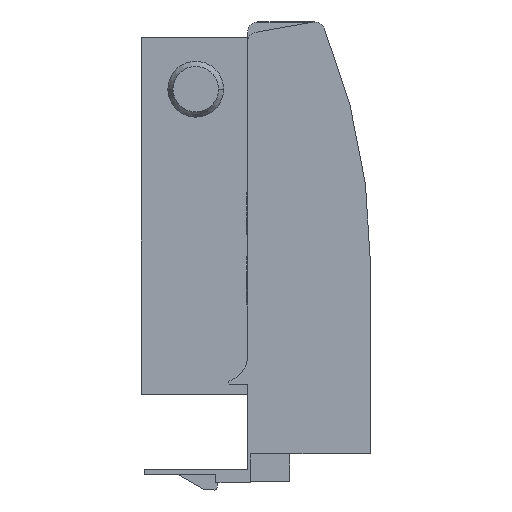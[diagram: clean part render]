
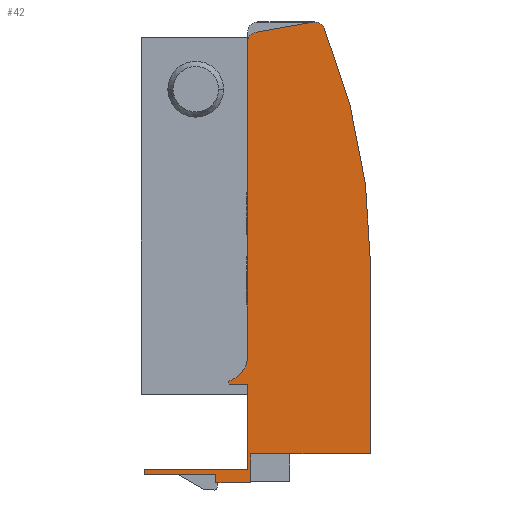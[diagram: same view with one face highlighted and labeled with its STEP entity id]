
A CAD part, front view. The second image highlights one B-rep face of the part: STEP entity #42.
In plain terms, the highlighted planar face has unit normal (0, -1, 0).
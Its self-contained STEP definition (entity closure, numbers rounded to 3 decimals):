
#42 = ADVANCED_FACE ( 'NONE', ( #1041 ), #891, .T. ) ;
#53 = CARTESIAN_POINT ( 'NONE',  ( -41.499, 0., -17.528 ) ) ;
#55 = CARTESIAN_POINT ( 'NONE',  ( -21.5, 0., -16.5 ) ) ;
#64 = CARTESIAN_POINT ( 'NONE',  ( -21.5, 0., 0. ) ) ;
#66 = CARTESIAN_POINT ( 'NONE',  ( -27.599, 0., -17.528 ) ) ;
#75 = CARTESIAN_POINT ( 'NONE',  ( -21.5, 0., 5.395 ) ) ;
#77 = CARTESIAN_POINT ( 'NONE',  ( -41.499, 0., -16.5 ) ) ;
#83 = CARTESIAN_POINT ( 'NONE',  ( -25.161, 0., 0.578 ) ) ;
#86 = CARTESIAN_POINT ( 'NONE',  ( -8.847, 0., 69.97 ) ) ;
#90 = CARTESIAN_POINT ( 'NONE',  ( 2.3, 0., 23.168 ) ) ;
#94 = CARTESIAN_POINT ( 'NONE',  ( -27.599, 0., -19.1 ) ) ;
#95 = CARTESIAN_POINT ( 'NONE',  ( -21.5, 0., 66.06 ) ) ;
#138 = CARTESIAN_POINT ( 'NONE',  ( -20.9, 0., -19.1 ) ) ;
#265 = CARTESIAN_POINT ( 'NONE',  ( -20.9, 0., -19.1 ) ) ;
#266 = DIRECTION ( 'NONE',  ( 0., 0., 1. ) ) ;
#281 = CARTESIAN_POINT ( 'NONE',  ( -26.5, 0., 5.395 ) ) ;
#282 = DIRECTION ( 'NONE',  ( 0., 1., 0. ) ) ;
#283 = DIRECTION ( 'NONE',  ( 1., 0., 0. ) ) ;
#288 = CARTESIAN_POINT ( 'NONE',  ( -25.161, 0., 0.578 ) ) ;
#289 = DIRECTION ( 'NONE',  ( 0.268, 0., -0.963 ) ) ;
#292 = CARTESIAN_POINT ( 'NONE',  ( -21.5, 0., 68. ) ) ;
#293 = DIRECTION ( 'NONE',  ( 0., 0., -1. ) ) ;
#310 = CARTESIAN_POINT ( 'NONE',  ( -21.5, 0., -16.5 ) ) ;
#311 = DIRECTION ( 'NONE',  ( -1., 0., 0. ) ) ;
#312 = CARTESIAN_POINT ( 'NONE',  ( -27.599, 0., -19.1 ) ) ;
#313 = DIRECTION ( 'NONE',  ( 1., 0., 0. ) ) ;
#324 = CARTESIAN_POINT ( 'NONE',  ( -21.5, 0., 0. ) ) ;
#325 = DIRECTION ( 'NONE',  ( 0., 0., -1. ) ) ;
#349 = CARTESIAN_POINT ( 'NONE',  ( 2.3, 0., -13.5 ) ) ;
#350 = DIRECTION ( 'NONE',  ( 0., 0., 1. ) ) ;
#360 = CARTESIAN_POINT ( 'NONE',  ( -21.5, 0., -13.5 ) ) ;
#361 = DIRECTION ( 'NONE',  ( 1., 0., 0. ) ) ;
#368 = CARTESIAN_POINT ( 'NONE',  ( -8.5, 0., 68. ) ) ;
#369 = DIRECTION ( 'NONE',  ( 0., -1., 0. ) ) ;
#370 = DIRECTION ( 'NONE',  ( 1., 0., 0. ) ) ;
#378 = CARTESIAN_POINT ( 'NONE',  ( -25., 0., 0. ) ) ;
#379 = DIRECTION ( 'NONE',  ( 1., 0., 0. ) ) ;
#380 = CARTESIAN_POINT ( 'NONE',  ( -41.499, 0., -16.5 ) ) ;
#381 = DIRECTION ( 'NONE',  ( 0., 0., -1. ) ) ;
#382 = CARTESIAN_POINT ( 'NONE',  ( -41.499, 0., -17.528 ) ) ;
#383 = DIRECTION ( 'NONE',  ( 1., 0., 0. ) ) ;
#384 = CARTESIAN_POINT ( 'NONE',  ( -27.599, 0., -17.528 ) ) ;
#385 = DIRECTION ( 'NONE',  ( 0., 0., -1. ) ) ;
#386 = CARTESIAN_POINT ( 'NONE',  ( -118.3, 0., 23.168 ) ) ;
#387 = DIRECTION ( 'NONE',  ( 0., -1., 0. ) ) ;
#388 = DIRECTION ( 'NONE',  ( 1., 0., 0. ) ) ;
#389 = CARTESIAN_POINT ( 'NONE',  ( -8.847, 0., 69.97 ) ) ;
#390 = DIRECTION ( 'NONE',  ( 0.985, 0., 0.174 ) ) ;
#391 = CARTESIAN_POINT ( 'NONE',  ( -19.5, 0., 66.06 ) ) ;
#392 = DIRECTION ( 'NONE',  ( 0., 1., 0. ) ) ;
#393 = DIRECTION ( 'NONE',  ( 1., 0., 0. ) ) ;
#590 = CARTESIAN_POINT ( 'NONE',  ( 2.3, 0., -13.5 ) ) ;
#626 = VERTEX_POINT ( 'NONE', #999 ) ;
#627 = VERTEX_POINT ( 'NONE', #1000 ) ;
#630 = VERTEX_POINT ( 'NONE', #1002 ) ;
#665 = VERTEX_POINT ( 'NONE', #1012 ) ;
#712 = VERTEX_POINT ( 'NONE', #590 ) ;
#718 = VERTEX_POINT ( 'NONE', #53 ) ;
#720 = VERTEX_POINT ( 'NONE', #55 ) ;
#737 = VERTEX_POINT ( 'NONE', #64 ) ;
#739 = VERTEX_POINT ( 'NONE', #66 ) ;
#748 = VERTEX_POINT ( 'NONE', #75 ) ;
#750 = VERTEX_POINT ( 'NONE', #77 ) ;
#756 = VERTEX_POINT ( 'NONE', #83 ) ;
#759 = VERTEX_POINT ( 'NONE', #86 ) ;
#795 = VERTEX_POINT ( 'NONE', #90 ) ;
#799 = VERTEX_POINT ( 'NONE', #94 ) ;
#800 = VERTEX_POINT ( 'NONE', #95 ) ;
#846 = VERTEX_POINT ( 'NONE', #138 ) ;
#891 = PLANE ( 'NONE',  #1758 ) ;
#892 = CARTESIAN_POINT ( 'NONE',  ( -4.5, 0., 34.728 ) ) ;
#893 = DIRECTION ( 'NONE',  ( 0., -1., 0. ) ) ;
#894 = DIRECTION ( 'NONE',  ( 1., 0., 0. ) ) ;
#999 = CARTESIAN_POINT ( 'NONE',  ( -6.648, 0., 68.756 ) ) ;
#1000 = CARTESIAN_POINT ( 'NONE',  ( -25., 0., 0. ) ) ;
#1002 = CARTESIAN_POINT ( 'NONE',  ( -20.9, 0., -13.5 ) ) ;
#1012 = CARTESIAN_POINT ( 'NONE',  ( -19.847, 0., 68.03 ) ) ;
#1041 = FACE_OUTER_BOUND ( 'NONE', #1399, .T. ) ;
#1105 = ORIENTED_EDGE ( 'NONE', *, *, #1604, .T. ) ;
#1106 = ORIENTED_EDGE ( 'NONE', *, *, #1645, .T. ) ;
#1107 = ORIENTED_EDGE ( 'NONE', *, *, #1621, .T. ) ;
#1108 = ORIENTED_EDGE ( 'NONE', *, *, #1614, .T. ) ;
#1109 = ORIENTED_EDGE ( 'NONE', *, *, #1646, .T. ) ;
#1110 = ORIENTED_EDGE ( 'NONE', *, *, #1647, .T. ) ;
#1111 = ORIENTED_EDGE ( 'NONE', *, *, #1648, .T. ) ;
#1112 = ORIENTED_EDGE ( 'NONE', *, *, #1615, .T. ) ;
#1113 = ORIENTED_EDGE ( 'NONE', *, *, #1593, .T. ) ;
#1114 = ORIENTED_EDGE ( 'NONE', *, *, #1637, .T. ) ;
#1115 = ORIENTED_EDGE ( 'NONE', *, *, #1632, .T. ) ;
#1116 = ORIENTED_EDGE ( 'NONE', *, *, #1649, .T. ) ;
#1117 = ORIENTED_EDGE ( 'NONE', *, *, #1641, .T. ) ;
#1118 = ORIENTED_EDGE ( 'NONE', *, *, #1650, .F. ) ;
#1119 = ORIENTED_EDGE ( 'NONE', *, *, #1651, .F. ) ;
#1120 = ORIENTED_EDGE ( 'NONE', *, *, #1606, .T. ) ;
#1121 = ORIENTED_EDGE ( 'NONE', *, *, #1601, .T. ) ;
#1399 = EDGE_LOOP ( 'NONE', ( #1105, #1106, #1107, #1108, #1109, #1110, #1111, #1112, #1113, #1114, #1115, #1116, #1117, #1118, #1119, #1120, #1121 ) ) ;
#1593 = EDGE_CURVE ( 'NONE', #846, #630, #1926, .T. ) ;
#1601 = EDGE_CURVE ( 'NONE', #748, #756, #2014, .T. ) ;
#1604 = EDGE_CURVE ( 'NONE', #756, #627, #1932, .T. ) ;
#1606 = EDGE_CURVE ( 'NONE', #800, #748, #2177, .T. ) ;
#1614 = EDGE_CURVE ( 'NONE', #720, #750, #1909, .T. ) ;
#1615 = EDGE_CURVE ( 'NONE', #799, #846, #1942, .T. ) ;
#1621 = EDGE_CURVE ( 'NONE', #737, #720, #1881, .T. ) ;
#1632 = EDGE_CURVE ( 'NONE', #712, #795, #1899, .T. ) ;
#1637 = EDGE_CURVE ( 'NONE', #630, #712, #2109, .T. ) ;
#1641 = EDGE_CURVE ( 'NONE', #626, #759, #1869, .T. ) ;
#1645 = EDGE_CURVE ( 'NONE', #627, #737, #1904, .T. ) ;
#1646 = EDGE_CURVE ( 'NONE', #750, #718, #1966, .T. ) ;
#1647 = EDGE_CURVE ( 'NONE', #718, #739, #1877, .T. ) ;
#1648 = EDGE_CURVE ( 'NONE', #739, #799, #1876, .T. ) ;
#1649 = EDGE_CURVE ( 'NONE', #795, #626, #1928, .T. ) ;
#1650 = EDGE_CURVE ( 'NONE', #665, #759, #1870, .T. ) ;
#1651 = EDGE_CURVE ( 'NONE', #800, #665, #1994, .T. ) ;
#1758 = AXIS2_PLACEMENT_3D ( 'NONE', #892, #893, #894 ) ;
#1799 = AXIS2_PLACEMENT_3D ( 'NONE', #281, #282, #283 ) ;
#1806 = AXIS2_PLACEMENT_3D ( 'NONE', #368, #369, #370 ) ;
#1808 = AXIS2_PLACEMENT_3D ( 'NONE', #386, #387, #388 ) ;
#1809 = AXIS2_PLACEMENT_3D ( 'NONE', #391, #392, #393 ) ;
#1869 = CIRCLE ( 'NONE', #1806, 2. ) ;
#1870 = LINE ( 'NONE', #389, #1871 ) ;
#1871 = VECTOR ( 'NONE', #390, 1000. ) ;
#1876 = LINE ( 'NONE', #384, #1945 ) ;
#1877 = LINE ( 'NONE', #382, #2172 ) ;
#1881 = LINE ( 'NONE', #324, #1935 ) ;
#1899 = LINE ( 'NONE', #349, #2094 ) ;
#1904 = LINE ( 'NONE', #378, #2130 ) ;
#1909 = LINE ( 'NONE', #310, #2143 ) ;
#1926 = LINE ( 'NONE', #265, #2157 ) ;
#1928 = CIRCLE ( 'NONE', #1808, 120.6 ) ;
#1932 = LINE ( 'NONE', #288, #2030 ) ;
#1935 = VECTOR ( 'NONE', #325, 1000. ) ;
#1937 = VECTOR ( 'NONE', #361, 1000. ) ;
#1942 = LINE ( 'NONE', #312, #2160 ) ;
#1945 = VECTOR ( 'NONE', #385, 1000. ) ;
#1966 = LINE ( 'NONE', #380, #2149 ) ;
#1994 = CIRCLE ( 'NONE', #1809, 2. ) ;
#2014 = CIRCLE ( 'NONE', #1799, 5. ) ;
#2015 = VECTOR ( 'NONE', #293, 1000. ) ;
#2030 = VECTOR ( 'NONE', #289, 1000. ) ;
#2094 = VECTOR ( 'NONE', #350, 1000. ) ;
#2109 = LINE ( 'NONE', #360, #1937 ) ;
#2130 = VECTOR ( 'NONE', #379, 1000. ) ;
#2143 = VECTOR ( 'NONE', #311, 1000. ) ;
#2149 = VECTOR ( 'NONE', #381, 1000. ) ;
#2157 = VECTOR ( 'NONE', #266, 1000. ) ;
#2160 = VECTOR ( 'NONE', #313, 1000. ) ;
#2172 = VECTOR ( 'NONE', #383, 1000. ) ;
#2177 = LINE ( 'NONE', #292, #2015 ) ;
